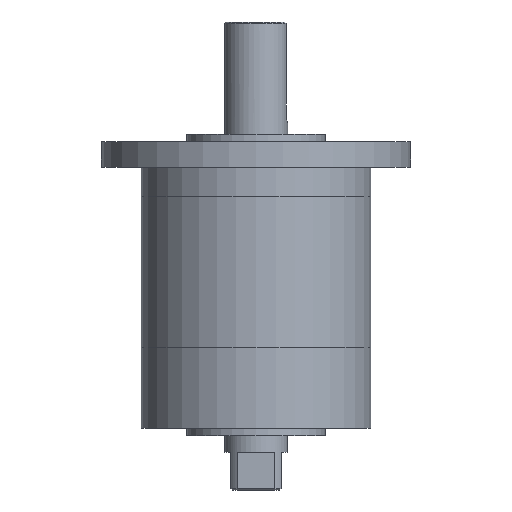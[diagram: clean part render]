
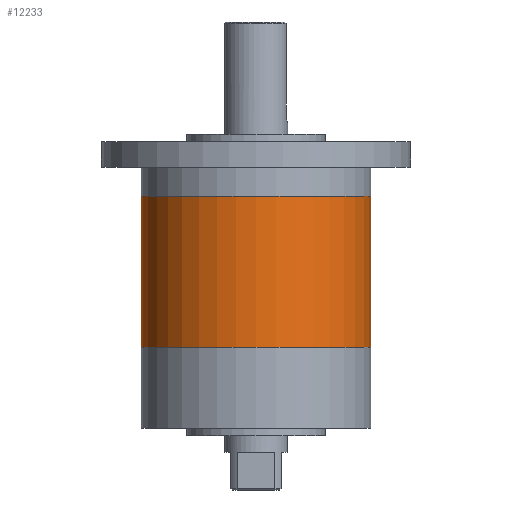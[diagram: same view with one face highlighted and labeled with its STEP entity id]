
A CAD part, front view. The second image highlights one B-rep face of the part: STEP entity #12233.
In plain terms, the highlighted cylindrical face has radius 91 mm (diameter 182 mm), a partial arc.
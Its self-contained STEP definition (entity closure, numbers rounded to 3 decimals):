
#521 = DIRECTION ( 'NONE',  ( 0., 0., -1. ) ) ;
#1072 = CARTESIAN_POINT ( 'NONE',  ( -91., 0., 0. ) ) ;
#1112 = CARTESIAN_POINT ( 'NONE',  ( 0., 0., 0. ) ) ;
#1197 = EDGE_CURVE ( 'NONE', #2136, #3144, #7289, .T. ) ;
#1823 = VECTOR ( 'NONE', #10612, 1000. ) ;
#1885 = CARTESIAN_POINT ( 'NONE',  ( -91., 0., 120. ) ) ;
#1889 = ORIENTED_EDGE ( 'NONE', *, *, #5497, .F. ) ;
#2136 = VERTEX_POINT ( 'NONE', #1072 ) ;
#2332 = ORIENTED_EDGE ( 'NONE', *, *, #8163, .T. ) ;
#2694 = CARTESIAN_POINT ( 'NONE',  ( -91., 0., 120. ) ) ;
#3144 = VERTEX_POINT ( 'NONE', #13028 ) ;
#3196 = DIRECTION ( 'NONE',  ( 0., 0., -1. ) ) ;
#3199 = LINE ( 'NONE', #10859, #16654 ) ;
#3206 = CYLINDRICAL_SURFACE ( 'NONE', #6642, 91. ) ;
#3760 = ORIENTED_EDGE ( 'NONE', *, *, #13374, .F. ) ;
#4405 = ORIENTED_EDGE ( 'NONE', *, *, #1197, .T. ) ;
#4602 = VERTEX_POINT ( 'NONE', #1885 ) ;
#5019 = DIRECTION ( 'NONE',  ( 1., 0., 0. ) ) ;
#5497 = EDGE_CURVE ( 'NONE', #13687, #3144, #3199, .T. ) ;
#6478 = CARTESIAN_POINT ( 'NONE',  ( 0., 0., 120. ) ) ;
#6642 = AXIS2_PLACEMENT_3D ( 'NONE', #16170, #521, #8460 ) ;
#7289 = CIRCLE ( 'NONE', #10944, 91. ) ;
#8163 = EDGE_CURVE ( 'NONE', #4602, #2136, #10969, .T. ) ;
#8460 = DIRECTION ( 'NONE',  ( -1., 0., 0. ) ) ;
#8727 = FACE_OUTER_BOUND ( 'NONE', #14689, .T. ) ;
#8991 = DIRECTION ( 'NONE',  ( 0., 0., 1. ) ) ;
#9330 = CARTESIAN_POINT ( 'NONE',  ( 91., 0., 120. ) ) ;
#10612 = DIRECTION ( 'NONE',  ( 0., 0., -1. ) ) ;
#10859 = CARTESIAN_POINT ( 'NONE',  ( 91., 0., 120. ) ) ;
#10944 = AXIS2_PLACEMENT_3D ( 'NONE', #1112, #8991, #11577 ) ;
#10969 = LINE ( 'NONE', #2694, #1823 ) ;
#11577 = DIRECTION ( 'NONE',  ( 1., 0., 0. ) ) ;
#12226 = CIRCLE ( 'NONE', #12601, 91. ) ;
#12233 = ADVANCED_FACE ( 'NONE', ( #8727 ), #3206, .T. ) ;
#12601 = AXIS2_PLACEMENT_3D ( 'NONE', #6478, #16907, #5019 ) ;
#13028 = CARTESIAN_POINT ( 'NONE',  ( 91., 0., 0. ) ) ;
#13374 = EDGE_CURVE ( 'NONE', #4602, #13687, #12226, .T. ) ;
#13687 = VERTEX_POINT ( 'NONE', #9330 ) ;
#14689 = EDGE_LOOP ( 'NONE', ( #1889, #3760, #2332, #4405 ) ) ;
#16170 = CARTESIAN_POINT ( 'NONE',  ( 0., 0., 120. ) ) ;
#16654 = VECTOR ( 'NONE', #3196, 1000. ) ;
#16907 = DIRECTION ( 'NONE',  ( 0., 0., 1. ) ) ;
